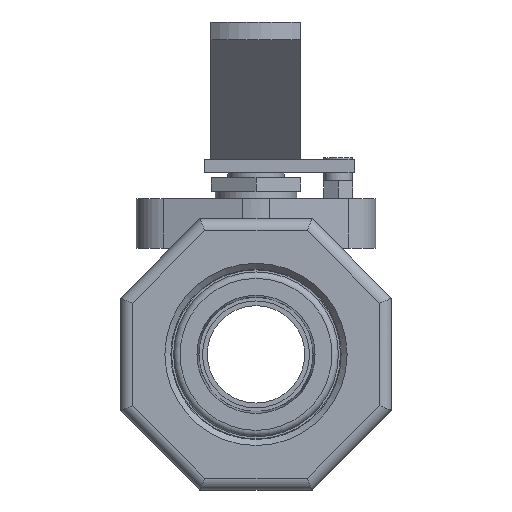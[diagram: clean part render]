
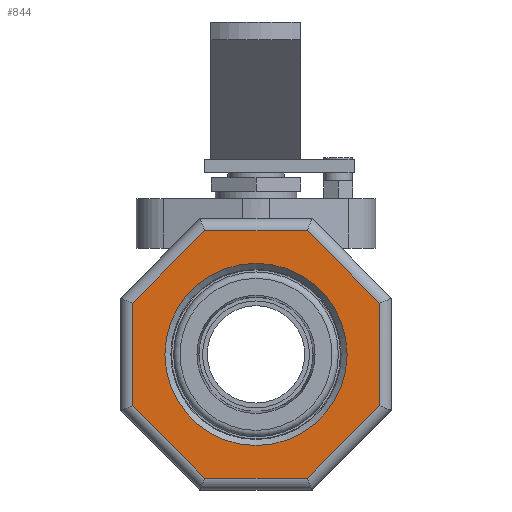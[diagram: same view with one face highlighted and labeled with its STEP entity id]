
A CAD part, left-side view. The second image highlights one B-rep face of the part: STEP entity #844.
In plain terms, the highlighted planar face has unit normal (-1, 0, 0).
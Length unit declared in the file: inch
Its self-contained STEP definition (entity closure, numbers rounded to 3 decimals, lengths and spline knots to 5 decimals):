
#758=CARTESIAN_POINT('',(0.602,0.7625,0.0));
#759=VERTEX_POINT('',#758);
#760=CARTESIAN_POINT('',(0.602,0.0,0.0));
#761=DIRECTION('',(-1.0,0.0,0.0));
#762=DIRECTION('',(0.0,-1.0,0.0));
#763=AXIS2_PLACEMENT_3D('',#760,#761,#762);
#764=CIRCLE('',#763,0.7625);
#765=EDGE_CURVE('',#759,#759,#764,.T.);
#770=CARTESIAN_POINT('',(0.602,0.0,0.0));
#771=DIRECTION('',(1.0,0.0,0.0));
#772=DIRECTION('',(0.0,0.0,-1.0));
#773=AXIS2_PLACEMENT_3D('',#770,#771,#772);
#774=PLANE('',#773);
#775=CARTESIAN_POINT('',(0.602,-1.035,-0.42871));
#776=VERTEX_POINT('',#775);
#777=CARTESIAN_POINT('',(0.602,-0.42871,-1.035));
#778=VERTEX_POINT('',#777);
#779=CARTESIAN_POINT('',(0.602,-1.035,-0.42871));
#780=DIRECTION('',(0.0,0.707,-0.707));
#781=VECTOR('',#780,0.85742);
#782=LINE('',#779,#781);
#783=EDGE_CURVE('',#776,#778,#782,.T.);
#784=ORIENTED_EDGE('',*,*,#783,.F.);
#785=CARTESIAN_POINT('',(0.602,-1.035,0.42871));
#786=VERTEX_POINT('',#785);
#787=CARTESIAN_POINT('',(0.602,-1.035,0.42871));
#788=DIRECTION('',(0.0,0.0,-1.0));
#789=VECTOR('',#788,0.85742);
#790=LINE('',#787,#789);
#791=EDGE_CURVE('',#786,#776,#790,.T.);
#792=ORIENTED_EDGE('',*,*,#791,.F.);
#793=CARTESIAN_POINT('',(0.602,-0.42871,1.035));
#794=VERTEX_POINT('',#793);
#795=CARTESIAN_POINT('',(0.602,-0.42871,1.035));
#796=DIRECTION('',(0.0,-0.707,-0.707));
#797=VECTOR('',#796,0.85742);
#798=LINE('',#795,#797);
#799=EDGE_CURVE('',#794,#786,#798,.T.);
#800=ORIENTED_EDGE('',*,*,#799,.F.);
#801=CARTESIAN_POINT('',(0.602,0.42871,1.035));
#802=VERTEX_POINT('',#801);
#803=CARTESIAN_POINT('',(0.602,0.42871,1.035));
#804=DIRECTION('',(0.0,-1.0,0.0));
#805=VECTOR('',#804,0.85742);
#806=LINE('',#803,#805);
#807=EDGE_CURVE('',#802,#794,#806,.T.);
#808=ORIENTED_EDGE('',*,*,#807,.F.);
#809=CARTESIAN_POINT('',(0.602,1.035,0.42871));
#810=VERTEX_POINT('',#809);
#811=CARTESIAN_POINT('',(0.602,1.035,0.42871));
#812=DIRECTION('',(0.0,-0.707,0.707));
#813=VECTOR('',#812,0.85742);
#814=LINE('',#811,#813);
#815=EDGE_CURVE('',#810,#802,#814,.T.);
#816=ORIENTED_EDGE('',*,*,#815,.F.);
#817=CARTESIAN_POINT('',(0.602,1.035,-0.42871));
#818=VERTEX_POINT('',#817);
#819=CARTESIAN_POINT('',(0.602,1.035,-0.42871));
#820=DIRECTION('',(0.0,0.0,1.0));
#821=VECTOR('',#820,0.85742);
#822=LINE('',#819,#821);
#823=EDGE_CURVE('',#818,#810,#822,.T.);
#824=ORIENTED_EDGE('',*,*,#823,.F.);
#825=CARTESIAN_POINT('',(0.602,0.42871,-1.035));
#826=VERTEX_POINT('',#825);
#827=CARTESIAN_POINT('',(0.602,0.42871,-1.035));
#828=DIRECTION('',(0.0,0.707,0.707));
#829=VECTOR('',#828,0.85742);
#830=LINE('',#827,#829);
#831=EDGE_CURVE('',#826,#818,#830,.T.);
#832=ORIENTED_EDGE('',*,*,#831,.F.);
#833=CARTESIAN_POINT('',(0.602,-0.42871,-1.035));
#834=DIRECTION('',(0.0,1.0,0.0));
#835=VECTOR('',#834,0.85742);
#836=LINE('',#833,#835);
#837=EDGE_CURVE('',#778,#826,#836,.T.);
#838=ORIENTED_EDGE('',*,*,#837,.F.);
#839=EDGE_LOOP('',(#784,#792,#800,#808,#816,#824,#832,#838));
#840=FACE_OUTER_BOUND('',#839,.T.);
#841=ORIENTED_EDGE('',*,*,#765,.F.);
#842=EDGE_LOOP('',(#841));
#843=FACE_BOUND('',#842,.T.);
#844=ADVANCED_FACE('',(#840,#843),#774,.F.);
